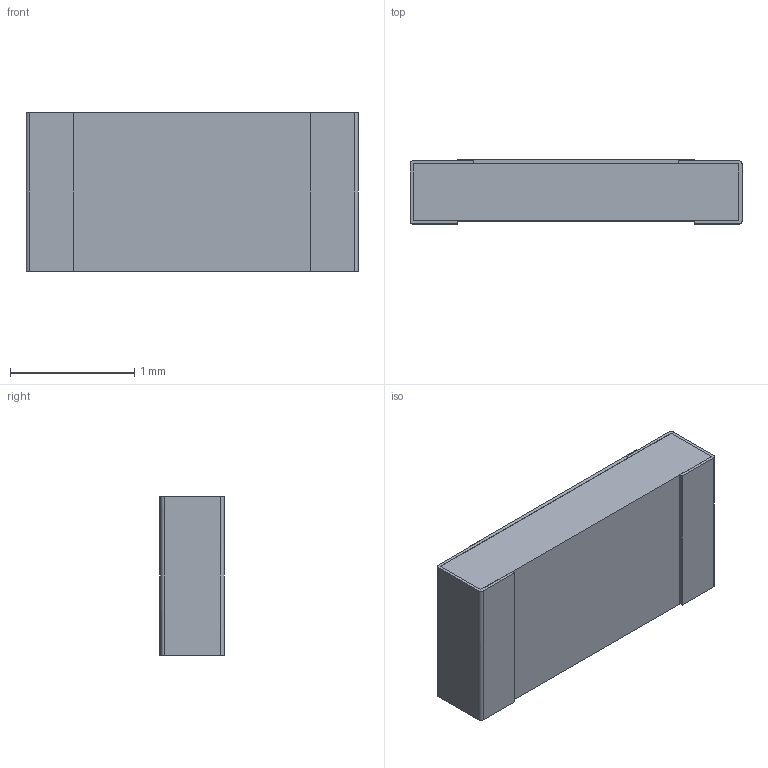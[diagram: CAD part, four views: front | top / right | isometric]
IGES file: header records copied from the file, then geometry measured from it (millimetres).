
Global section: file name: M55342-03; native system: Autodesk Inventor LT ; preprocessor: unknown; author: Neil; date: 20190911.151107; units: inch
Bounding box: 2.67 x 0.52 x 1.27 mm (x, y, z)
Volume: 1.7 mm3; surface area: 25.5 mm2
Topology: 5 solids, 5 shells, 50 faces, 120 edges, 80 vertices
Faces by surface type: bspline 50
